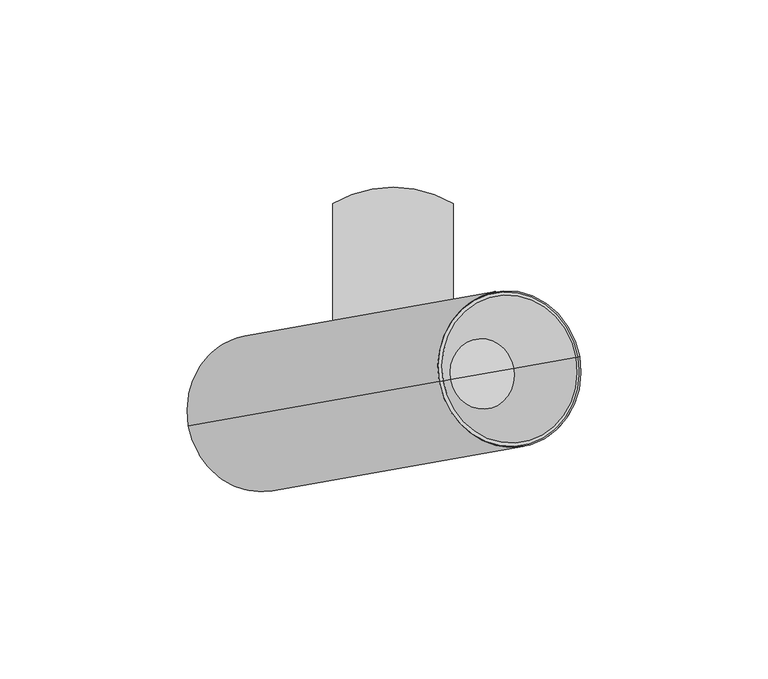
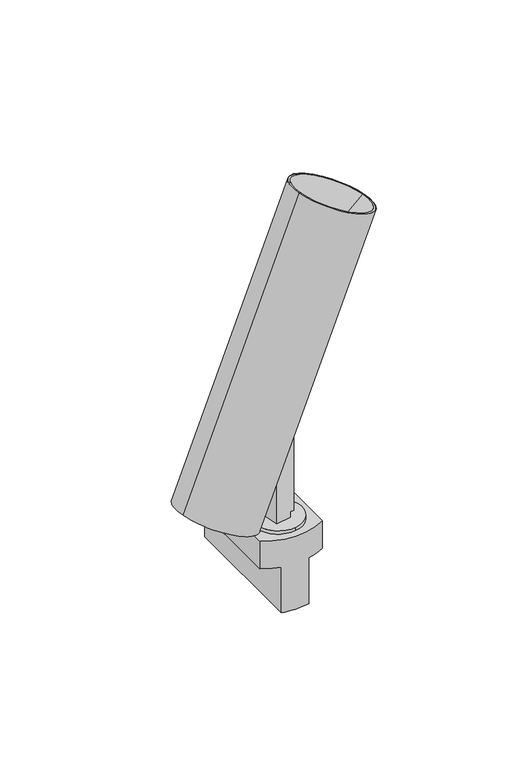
"""IFC4 building model written with IfcOpenShell, lengths in millimetres: light fixture geometry, PIPES T XS : 490lm 7,8W 930 38°."""

from ifc_helpers import new_model, si_unit, point, frame, frame_2d, origin, origin_2d, place, context, project, spatial, polyline, circle_curve, trimmed, segment, composite_curve, outline, extrude, source, transform, mapped, element, save
from ifc_brep_helpers import plane_surface, cylinder_surface, revolved_surface, advanced_brep


def light_fixture_5da330bd(model_context):
    return source(origin(), model_context, "Body", "SolidModel", [
        extrude(outline(composite_curve([segment(polyline([(39.7303383, 0.0), (39.7303383, -8.0), (36.7303383, -8.0), (36.7303383, -10.0000001), (-21.31827, -10.0000001), (-21.31827, -2.0)]), True, "CONTINUOUS"), segment(trimmed(circle_curve(frame_2d((-15.691322, -2.0)), 5.626948), [point((-21.31827, -2.0))], [point((-15.691322, 3.626948))], False, "CARTESIAN"), True, "CONTINUOUS"), segment(polyline([(-15.691322, 3.626948), (-9.8735653, 3.626948)]), True, "CONTINUOUS"), segment(trimmed(circle_curve(frame_2d((-17.7182036, -2.2388678)), 9.7952104), [point((-9.8735653, 3.626948))], [point((-8.1822916, 0.0))], False, "CARTESIAN"), True, "CONTINUOUS"), segment(polyline([(-8.1822916, 0.0), (39.7303383, 0.0)]), True, "CONTINUOUS")], self_intersect=False)), frame((-4.0557979, -5.7922797, 56.5303383), z_axis=(-0.17364817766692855, 0.9848077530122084, 0.0), x_axis=(0.0, 0.0, -1.0)), (0.0, 0.0, 1.0), 10.0),
        extrude(outline(composite_curve([segment(trimmed(circle_curve(origin_2d(), 12.5), [point((-2.1706022, 12.3100969))], [point((2.1706022, -12.3100969))], False, "CARTESIAN"), True, "CONTINUOUS"), segment(trimmed(circle_curve(origin_2d(), 12.5), [point((2.1706022, -12.3100969))], [point((-2.1706022, 12.3100969))], False, "CARTESIAN"), True, "CONTINUOUS")], self_intersect=False)), frame((0.0, 0.0, 15.0), z_axis=(0.0, 0.0, 1.0), x_axis=(1.0, 0.0, 0.0)), (0.0, 0.0, 1.0), 1.8),
        advanced_brep(
        [(-7.1153658, -15.2862846, -25.0), (-7.1153658, 53.3498174, -25.0), (7.1153658, 53.3498174, -25.0), (7.1153658, -15.2862846, -25.0), (-16.1153658, 49.7317664, 15.0), (-16.1153658, -11.6682336, 15.0), (16.1153658, -11.6682336, 15.0), (16.1153658, 49.7317664, 15.0), (-16.1153658, 49.7317664, 0.0), (-16.1153658, -11.6682336, 0.0), (-7.1153658, -15.2862846, 0.0), (7.1153658, -15.2862846, 0.0), (16.1153658, -11.6682336, 0.0), (16.1153658, 49.7317664, 0.0), (7.1153658, 53.3498174, 0.0), (-7.1153658, 53.3498174, 0.0)],
        [
            (0, 1),
            (1, 2, circle_curve(frame((0.0, 22.6472542, -25.0), z_axis=(0.0, 0.0, -1.0), x_axis=(1.0, 0.0, 0.0)), 31.5162786)),
            (2, 3),
            (3, 0, circle_curve(frame((0.0, 15.4162786, -25.0), z_axis=(0.0, 0.0, -1.0), x_axis=(1.0, 0.0, 0.0)), 31.5162786)),
            (4, 5),
            (5, 6, circle_curve(frame((0.0, 15.4162786, 15.0), z_axis=(0.0, 0.0, 1.0), x_axis=(1.0, 0.0, 0.0)), 31.5162786)),
            (6, 7),
            (7, 4, circle_curve(frame((0.0, 22.6472542, 15.0), z_axis=(0.0, 0.0, 1.0), x_axis=(1.0, 0.0, 0.0)), 31.5162786)),
            (4, 8),
            (8, 9),
            (9, 5),
            (9, 10, circle_curve(frame((0.0, 15.4162786, 0.0), z_axis=(0.0, 0.0, 1.0), x_axis=(1.0, 0.0, 0.0)), 31.5162786)),
            (10, 0),
            (3, 11),
            (11, 12, circle_curve(frame((0.0, 15.4162786, 0.0), z_axis=(0.0, 0.0, 1.0), x_axis=(1.0, 0.0, 0.0)), 31.5162786)),
            (12, 6),
            (12, 13),
            (13, 7),
            (13, 14, circle_curve(frame((0.0, 22.6472542, 0.0), z_axis=(0.0, 0.0, 1.0), x_axis=(1.0, 0.0, 0.0)), 31.5162786)),
            (14, 2),
            (1, 15),
            (15, 8, circle_curve(frame((0.0, 22.6472542, 0.0), z_axis=(0.0, 0.0, 1.0), x_axis=(1.0, 0.0, 0.0)), 31.5162786)),
            (15, 10),
            (11, 14),
        ],
        [
            plane_surface(frame((-16.1153658, -11.6883244, -25.0), z_axis=(0.0, 0.0, -1.0), x_axis=(0.0, 1.0, 0.0))),
            plane_surface(frame((-16.1153658, -11.6883244, 15.0), z_axis=(0.0, 0.0, 1.0), x_axis=(0.0, -1.0, 0.0))),
            plane_surface(frame((-16.1153658, 49.7317664, 15.0), z_axis=(-1.0, 0.0, 0.0), x_axis=(0.0, 0.0, -1.0))),
            cylinder_surface(frame((0.0, 15.4162786, -25.0), z_axis=(0.0, 0.0, 1.0), x_axis=(1.0, 0.0, 0.0)), 31.5162786),
            plane_surface(frame((16.1153658, -11.6682336, 15.0), z_axis=(1.0, 0.0, 0.0), x_axis=(0.0, 0.0, -1.0))),
            cylinder_surface(frame((0.0, 22.6472542, -25.0), z_axis=(0.0, 0.0, 1.0), x_axis=(1.0, 0.0, 0.0)), 31.5162786),
            plane_surface(frame((-7.1153658, 58.6979838, 0.0), z_axis=(0.0, 0.0, -1.0), x_axis=(-1.0, 0.0, 0.0))),
            plane_surface(frame((-7.1153658, -21.3020162, 0.0), z_axis=(-1.0, 0.0, 0.0), x_axis=(0.0, 0.0, -1.0))),
            plane_surface(frame((7.1153658, -11.6883244, 0.0), z_axis=(0.0, 0.0, -1.0), x_axis=(0.0, -1.0, 0.0))),
            plane_surface(frame((7.1153658, 58.6979838, 0.0), z_axis=(1.0, 0.0, 0.0), x_axis=(0.0, 0.0, -1.0))),
        ],
        [
            (0, [[1, 2, 3, 4]]),
            (1, [[5, 6, 7, 8]]),
            (2, [[-5, 9, 10, 11]]),
            (3, [[-6, -11, 12, 13, -4, 14, 15, 16]]),
            (4, [[-7, -16, 17, 18]]),
            (5, [[-8, -18, 19, 20, -2, 21, 22, -9]]),
            (6, [[23, -12, -10, -22]]),
            (7, [[-23, -21, -1, -13]]),
            (8, [[24, -19, -17, -15]]),
            (9, [[-24, -14, -3, -20]]),
        ],
    ),
        advanced_brep(
        [(-3.2499469, 4.5040797, 79.6446302), (-24.4760316, 0.7613483, 33.4229331), (-17.933451, 1.9149818, 30.3250133), (-20.4306374, 1.4746604, 24.8871666), (-18.5868526, 1.7997695, 24.0141322), (5.1364186, 5.9828223, 75.6736761), (-1.5134651, -5.3439978, 79.6446302), (6.8729004, -3.8652553, 75.6736761), (-16.8503708, -8.0483081, 24.0141322), (-18.6941557, -8.3734171, 24.8871666), (-16.1969692, -7.9330957, 30.3250133), (-22.7395499, -9.0867292, 33.4229331), (-23.6077907, -4.1626905, 33.4229331), (6.5436834, 1.1538279, 75.4184476), (49.8282484, 8.7860646, 169.6744575), (12.3416131, 2.1761594, 187.4244245), (-54.6662231, -9.6391301, 41.5088708), (-52.8811453, -9.3243727, 40.6636342), (-50.3839588, -8.8840513, 46.101481), (-33.425719, -5.8938561, 38.071734), (14.4598832, 2.5496675, 166.0089295), (32.3106619, 5.6972415, 157.5565643), (23.3852726, 4.1234545, 161.7827469)],
        [
            (0, 1),
            (1, 2),
            (2, 3),
            (3, 4),
            (4, 5),
            (5, 0),
            (6, 7),
            (7, 8),
            (8, 9),
            (9, 10),
            (10, 11),
            (11, 6),
            (0, 6),
            (11, 12),
            (12, 1),
            (5, 13, circle_curve(frame((-12.1996343, -2.1511247, 84.2934311), z_axis=(-0.4161977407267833, -0.0733868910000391, -0.9063077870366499), x_axis=(0.8925389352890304, 0.15737869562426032, -0.42261826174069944)), 21.0)),
            (13, 7, circle_curve(frame((-12.1996343, -2.1511247, 84.2934311), z_axis=(-0.4161977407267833, -0.0733868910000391, -0.9063077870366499), x_axis=(0.8925389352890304, 0.15737869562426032, -0.42261826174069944)), 21.0)),
            (14, 15, circle_curve(frame((31.0849308, 5.481112, 178.549441), z_axis=(-0.4161977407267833, -0.0733868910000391, -0.9063077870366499), x_axis=(0.8925389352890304, 0.15737869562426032, -0.42261826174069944)), 21.0)),
            (15, 16),
            (16, 8, circle_curve(frame((-35.9229055, -6.3341775, 32.6338873), z_axis=(0.4161977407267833, 0.0733868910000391, 0.9063077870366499), x_axis=(0.8925389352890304, 0.15737869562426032, -0.42261826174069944)), 21.0)),
            (13, 14),
            (15, 14, circle_curve(frame((31.0849308, 5.481112, 178.549441), z_axis=(-0.4161977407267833, -0.0733868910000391, -0.9063077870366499), x_axis=(0.8925389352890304, 0.15737869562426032, -0.42261826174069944)), 21.0)),
            (4, 16, circle_curve(frame((-35.9229055, -6.3341775, 32.6338873), z_axis=(0.4161977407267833, 0.0733868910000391, 0.9063077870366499), x_axis=(0.8925389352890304, 0.15737869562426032, -0.42261826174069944)), 21.0)),
            (16, 17),
            (17, 9, circle_curve(frame((-35.9229055, -6.3341775, 32.6338873), z_axis=(0.4161977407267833, 0.0733868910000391, 0.9063077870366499), x_axis=(0.8925389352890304, 0.15737869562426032, -0.42261826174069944)), 19.0)),
            (3, 17, circle_curve(frame((-35.9229055, -6.3341775, 32.6338873), z_axis=(0.4161977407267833, 0.0733868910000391, 0.9063077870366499), x_axis=(0.8925389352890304, 0.15737869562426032, -0.42261826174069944)), 19.0)),
            (17, 18),
            (18, 10, circle_curve(frame((-33.425719, -5.8938561, 38.071734), z_axis=(0.4161977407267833, 0.0733868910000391, 0.9063077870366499), x_axis=(0.8925389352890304, 0.15737869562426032, -0.42261826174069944)), 19.0)),
            (2, 18, circle_curve(frame((-33.425719, -5.8938561, 38.071734), z_axis=(0.4161977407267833, 0.0733868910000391, 0.9063077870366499), x_axis=(0.8925389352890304, 0.15737869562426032, -0.42261826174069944)), 19.0)),
            (18, 19),
            (19, 12),
            (20, 21, circle_curve(frame((23.3852726, 4.1234545, 161.7827469), z_axis=(0.4161977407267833, 0.0733868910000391, 0.9063077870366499), x_axis=(0.8925389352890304, 0.15737869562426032, -0.42261826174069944)), 10.0)),
            (21, 22),
            (22, 20),
            (21, 20, circle_curve(frame((23.3852726, 4.1234545, 161.7827469), z_axis=(0.4161977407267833, 0.0733868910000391, 0.9063077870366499), x_axis=(0.8925389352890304, 0.15737869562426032, -0.42261826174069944)), 10.0)),
            (14, 21),
            (20, 15),
        ],
        [
            plane_surface(frame((-3.2499469, 4.5040797, 79.6446302), z_axis=(0.17364817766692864, -0.9848077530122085, 0.0), x_axis=(0.41619774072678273, 0.07338689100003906, 0.9063077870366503))),
            plane_surface(frame((-1.5134651, -5.3439978, 79.6446302), z_axis=(-0.17364817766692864, 0.9848077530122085, 0.0), x_axis=(-0.41619774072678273, -0.07338689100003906, -0.9063077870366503))),
            plane_surface(frame((-1.5134651, -5.3439978, 79.6446302), z_axis=(0.8925389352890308, 0.1573786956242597, -0.4226182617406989), x_axis=(-0.1736481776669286, 0.9848077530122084, 0.0))),
            plane_surface(frame((16.3373136, -2.1964239, 71.192265), z_axis=(-0.41619774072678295, -0.0733868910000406, -0.90630778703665), x_axis=(-0.17364817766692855, 0.9848077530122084, 0.0))),
            cylinder_surface(frame((-39.4407673, -6.9544714, 24.9734286), z_axis=(-0.4161977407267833, -0.0733868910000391, -0.9063077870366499), x_axis=(0.8925389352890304, 0.15737869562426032, -0.42261826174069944)), 21.0),
            plane_surface(frame((-35.9229055, -6.3341775, 32.6338873), z_axis=(-0.41619774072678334, -0.07338689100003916, -0.90630778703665), x_axis=(0.8925389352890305, 0.15737869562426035, -0.4226182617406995))),
            revolved_surface(polyline([(-18.964665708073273, -3.343982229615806, 24.604140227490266), (-16.467479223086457, -2.903660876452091, 30.04198703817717)]), (-39.4407673, -6.9544714, 24.9734286), (-0.4161977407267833, -0.0733868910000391, -0.9063077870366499)),
            plane_surface(frame((-33.425719, -5.8938561, 38.071734), z_axis=(-0.41619774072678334, -0.07338689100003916, -0.90630778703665), x_axis=(0.8925389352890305, 0.15737869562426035, -0.4226182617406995))),
            plane_surface(frame((23.3852726, 4.1234545, 161.7827469), z_axis=(0.41619774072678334, 0.07338689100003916, 0.90630778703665), x_axis=(0.8925389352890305, 0.15737869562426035, -0.4226182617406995))),
            revolved_surface(polyline([(32.3106619, 5.6972415, 157.5565643), (49.8282484, 8.7860646, 169.6744575)]), (-39.4407673, -6.9544714, 24.9734286), (-0.4161977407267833, -0.0733868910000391, -0.9063077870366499)),
        ],
        [
            (0, [[1, 2, 3, 4, 5, 6]]),
            (1, [[7, 8, 9, 10, 11, 12]]),
            (2, [[13, -12, 14, 15, -1]]),
            (3, [[-13, -6, 16, 17, -7]]),
            (4, [[18, 19, 20, -8, -17, 21]]),
            (4, [[-19, 22, -21, -16, -5, 23]]),
            (5, [[24, 25, -9, -20]]),
            (5, [[-24, -23, -4, 26]]),
            (6, [[27, 28, -10, -25]]),
            (6, [[-27, -26, -3, 29]]),
            (7, [[30, 31, -14, -11, -28]]),
            (7, [[-30, -29, -2, -15, -31]]),
            (8, [[32, 33, 34]]),
            (8, [[-33, 35, -34]]),
            (9, [[-18, 36, -32, 37]]),
            (9, [[-22, -37, -35, -36]]),
        ],
    ),
        advanced_brep(
        [(-26.1408226, 0.4678007, 29.797702), (-26.9732181, 0.321027, 27.9850864), (-22.2950414, 1.1459157, 25.7699641), (-21.4626459, 1.2926895, 27.5825796), (-25.2367363, -9.5270506, 27.9850864), (-24.4043408, -9.3802768, 29.797702), (-19.7261641, -8.555388, 27.5825796), (-20.5585596, -8.7021618, 25.7699641), (-25.2725817, -4.456238, 29.797702), (-26.1049772, -4.6030118, 27.9850864), (-35.09051, -6.1874037, 34.4465028), (-50.2579984, -8.8618411, 41.6283269), (-51.0903939, -9.0086149, 39.8157113), (-35.9229055, -6.3341775, 32.6338873)],
        [
            (0, 1),
            (1, 2),
            (2, 3),
            (3, 0),
            (4, 5),
            (5, 6),
            (6, 7),
            (7, 4),
            (0, 8),
            (8, 5),
            (4, 9),
            (9, 1),
            (10, 11),
            (11, 6, circle_curve(frame((-35.09051, -6.1874037, 34.4465028), z_axis=(0.4161977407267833, 0.0733868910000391, 0.9063077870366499), x_axis=(0.8925389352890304, 0.15737869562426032, -0.42261826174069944)), 16.9936434)),
            (8, 10),
            (3, 11, circle_curve(frame((-35.09051, -6.1874037, 34.4465028), z_axis=(0.4161977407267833, 0.0733868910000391, 0.9063077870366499), x_axis=(0.8925389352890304, 0.15737869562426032, -0.42261826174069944)), 16.9936434)),
            (11, 12),
            (12, 7, circle_curve(frame((-35.9229055, -6.3341775, 32.6338873), z_axis=(0.4161977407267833, 0.0733868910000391, 0.9063077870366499), x_axis=(0.8925389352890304, 0.15737869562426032, -0.42261826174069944)), 16.9936434)),
            (2, 12, circle_curve(frame((-35.9229055, -6.3341775, 32.6338873), z_axis=(0.4161977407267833, 0.0733868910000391, 0.9063077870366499), x_axis=(0.8925389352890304, 0.15737869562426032, -0.42261826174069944)), 16.9936434)),
            (12, 13),
            (13, 9),
        ],
        [
            plane_surface(frame((-3.2499469, 4.5040797, 79.6446302), z_axis=(0.17364817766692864, -0.9848077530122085, 0.0), x_axis=(0.41619774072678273, 0.07338689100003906, 0.9063077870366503))),
            plane_surface(frame((-1.5134651, -5.3439978, 79.6446302), z_axis=(-0.17364817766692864, 0.9848077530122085, 0.0), x_axis=(-0.41619774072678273, -0.07338689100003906, -0.9063077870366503))),
            plane_surface(frame((-1.5134651, -5.3439978, 79.6446302), z_axis=(0.8925389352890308, 0.1573786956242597, -0.4226182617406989), x_axis=(-0.1736481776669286, 0.9848077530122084, 0.0))),
            plane_surface(frame((-35.09051, -6.1874037, 34.4465028), z_axis=(0.41619774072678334, 0.07338689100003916, 0.90630778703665), x_axis=(0.8925389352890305, 0.15737869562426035, -0.4226182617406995))),
            cylinder_surface(frame((19.0350152, 3.3563868, 152.3096727), z_axis=(-0.4161977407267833, -0.0733868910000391, -0.9063077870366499), x_axis=(0.8925389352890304, 0.15737869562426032, -0.42261826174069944)), 16.9936434),
            plane_surface(frame((-35.9229055, -6.3341775, 32.6338873), z_axis=(-0.41619774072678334, -0.07338689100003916, -0.90630778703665), x_axis=(0.8925389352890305, 0.15737869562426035, -0.4226182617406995))),
        ],
        [
            (0, [[1, 2, 3, 4]]),
            (1, [[5, 6, 7, 8]]),
            (2, [[-1, 9, 10, -5, 11, 12]]),
            (3, [[13, 14, -6, -10, 15]]),
            (3, [[-13, -15, -9, -4, 16]]),
            (4, [[17, 18, -7, -14]]),
            (4, [[-17, -16, -3, 19]]),
            (5, [[20, 21, -11, -8, -18]]),
            (5, [[-20, -19, -2, -12, -21]]),
        ],
    ),
        advanced_brep(
        [(15.3837785, 2.7125752, 166.6748419), (32.2191621, 5.6811076, 158.7032675), (23.8014703, 4.1968414, 162.6890547), (13.3800095, 2.3592567, 186.9327425), (48.7898521, 8.6029673, 170.1661394), (12.3416131, 2.1761594, 187.4244245), (49.8282484, 8.7860646, 169.6744575), (14.4598832, 2.5496675, 166.0089295), (32.3106619, 5.6972415, 157.5565643), (23.3852726, 4.1234545, 161.7827469)],
        [
            (0, 1, circle_curve(frame((23.8014703, 4.1968414, 162.6890547), z_axis=(0.4161977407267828, 0.073386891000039, 0.9063077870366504), x_axis=(0.8925389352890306, 0.15737869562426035, -0.42261826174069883)), 9.431176)),
            (1, 2),
            (2, 0),
            (1, 0, circle_curve(frame((23.8014703, 4.1968414, 162.6890547), z_axis=(0.4161977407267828, 0.073386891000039, 0.9063077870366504), x_axis=(0.8925389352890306, 0.15737869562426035, -0.42261826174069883)), 9.431176)),
            (3, 4, circle_curve(frame((31.0849308, 5.481112, 178.549441), z_axis=(0.4161977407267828, 0.073386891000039, 0.9063077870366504), x_axis=(0.8925389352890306, 0.15737869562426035, -0.42261826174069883)), 19.8365814)),
            (4, 1),
            (0, 3),
            (4, 3, circle_curve(frame((31.0849308, 5.481112, 178.549441), z_axis=(0.4161977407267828, 0.073386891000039, 0.9063077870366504), x_axis=(0.8925389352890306, 0.15737869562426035, -0.42261826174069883)), 19.8365814)),
            (5, 6, circle_curve(frame((31.0849308, 5.481112, 178.549441), z_axis=(0.4161977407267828, 0.073386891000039, 0.9063077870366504), x_axis=(0.8925389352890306, 0.15737869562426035, -0.42261826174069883)), 21.0)),
            (6, 4),
            (3, 5),
            (6, 5, circle_curve(frame((31.0849308, 5.481112, 178.549441), z_axis=(0.4161977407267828, 0.073386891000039, 0.9063077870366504), x_axis=(0.8925389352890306, 0.15737869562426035, -0.42261826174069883)), 21.0)),
            (7, 8, circle_curve(frame((23.3852726, 4.1234545, 161.7827469), z_axis=(0.4161977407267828, 0.073386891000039, 0.9063077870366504), x_axis=(0.8925389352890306, 0.15737869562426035, -0.42261826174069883)), 10.0)),
            (8, 6),
            (5, 7),
            (8, 7, circle_curve(frame((23.3852726, 4.1234545, 161.7827469), z_axis=(0.4161977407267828, 0.073386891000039, 0.9063077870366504), x_axis=(0.8925389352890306, 0.15737869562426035, -0.42261826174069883)), 10.0)),
            (9, 8),
            (7, 9),
        ],
        [
            plane_surface(frame((23.8014703, 4.1968414, 162.6890547), z_axis=(0.41619774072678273, 0.07338689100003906, 0.9063077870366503), x_axis=(0.8925389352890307, 0.15737869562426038, -0.4226182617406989))),
            revolved_surface(polyline([(32.2191621, 5.6811076, 158.7032675), (48.7898521, 8.6029673, 170.1661394)]), (-47.7647222, -8.4222092, 6.8472728), (-0.4161977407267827, -0.07338689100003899, -0.9063077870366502)),
            plane_surface(frame((31.0849308, 5.481112, 178.549441), z_axis=(0.41619774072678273, 0.07338689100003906, 0.9063077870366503), x_axis=(0.8925389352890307, 0.15737869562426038, -0.4226182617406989))),
            revolved_surface(polyline([(49.8282484, 8.7860646, 169.6744575), (32.3106619, 5.6972415, 157.5565643)]), (-47.7647222, -8.4222092, 6.8472728), (-0.4161977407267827, -0.07338689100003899, -0.9063077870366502)),
            plane_surface(frame((23.3852726, 4.1234545, 161.7827469), z_axis=(-0.41619774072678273, -0.07338689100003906, -0.9063077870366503), x_axis=(0.8925389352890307, 0.15737869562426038, -0.4226182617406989))),
        ],
        [
            (0, [[1, 2, 3]]),
            (0, [[4, -3, -2]]),
            (1, [[5, 6, -1, 7]]),
            (1, [[8, -7, -4, -6]]),
            (2, [[9, 10, -5, 11]]),
            (2, [[12, -11, -8, -10]]),
            (3, [[13, 14, -9, 15]]),
            (3, [[16, -15, -12, -14]]),
            (4, [[17, -13, 18]]),
            (4, [[-18, -16, -17]]),
        ],
    ),
    ])


if __name__ == "__main__":
    model = new_model("IFC4")
    model_context = context("Model", 3, world=origin())
    ifc_project = project(units=[si_unit("LENGTHUNIT", "METRE", prefix="MILLI")], contexts=[model_context])
    site = spatial("IfcSite", under=ifc_project)
    building = spatial("IfcBuilding", under=site)
    placement = place(None, origin())
    light_fixture_shape = light_fixture_5da330bd(model_context)
    element("IfcLightFixture", 1, ObjectType="PIPES T XS : 490lm 7,8W 930 38°", at=placement, inside=building, context=model_context, shape_type="MappedRepresentation", body=[
        mapped(light_fixture_shape, transform((0.0, 0.0, 0.0), x_axis=(1.0, 0.0, 0.0), y_axis=(0.0, 1.0, 0.0), z_axis=(0.0, 0.0, 1.0))),
    ])
    save(model, "model.ifc")
